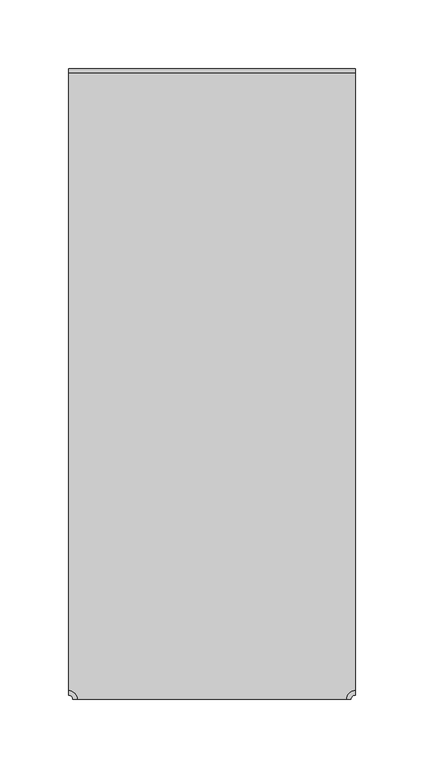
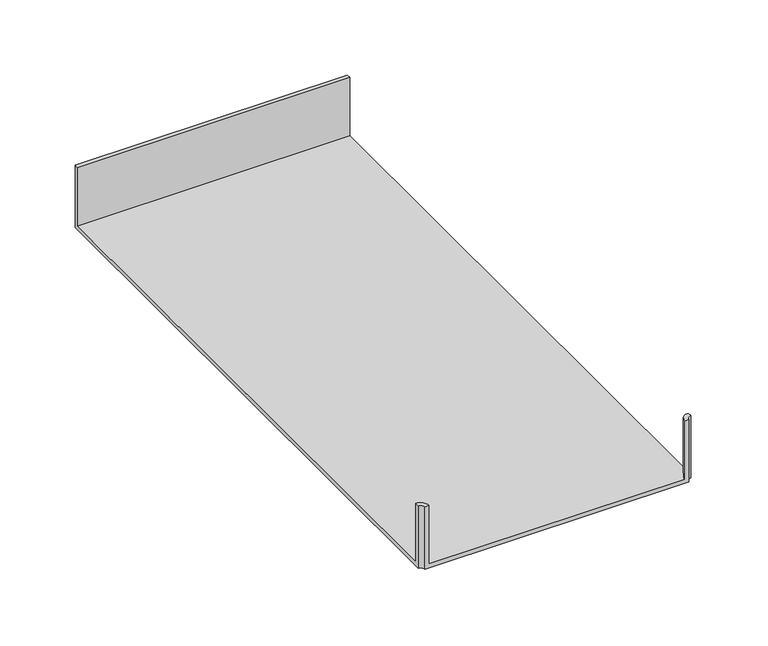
"""IFC4 building model written with IfcOpenShell, lengths in millimetres: cable carrier fitting geometry, Tee-Cablofil-Wire_Mesh_Cable_Tray : EZ T 90 KIT."""

import ifcopenshell
import ifcopenshell.guid

model = None  # the IFC model being written
_history = None  # IfcOwnerHistory: only IFC2X3 demands one
_inside = {}  # id of a spatial element -> (the spatial element, [elements in it])
_under = {}  # id of a project, library or spatial element -> (it, [spatial elements below it])
_declared = {}  # id of a project -> (the project, [libraries it declares])
_typed = {}  # id of a type object -> (the type object, [elements of that type])
_made_of = {}  # id of a material, layer set ... -> (it, [elements and type objects made of it])


def new_model(schema):
    """Start an empty IFC model of exactly this schema.

    Asked for "IFC4X3", IfcOpenShell would pick the latest addendum, in which some entities
    have other attributes; the version numbers below select the first issue.
    IFC2X3 requires an IfcOwnerHistory on every rooted entity: one is made here for all.
    """
    global model, _history
    if schema == "IFC4X3":
        model = ifcopenshell.file(schema_version=(4, 3, 0, 0))
    else:
        model = ifcopenshell.file(schema=schema)
    _inside.clear()
    _under.clear()
    _declared.clear()
    _typed.clear()
    _made_of.clear()
    _history = None
    if model.schema == "IFC2X3":
        org = make("IfcOrganization", Name="unknown")
        user = make(
            "IfcPersonAndOrganization",
            ThePerson=make("IfcPerson", FamilyName="unknown"),
            TheOrganization=org,
        )
        app = make(
            "IfcApplication",
            ApplicationDeveloper=org,
            Version="unknown",
            ApplicationFullName="unknown",
            ApplicationIdentifier="unknown",
        )
        _history = make(
            "IfcOwnerHistory",
            OwningUser=user,
            OwningApplication=app,
            ChangeAction="ADDED",
            CreationDate=0,
        )
    return model


def make(cls, **values):
    """One entity of the class cls with the attributes given. An attribute that is None is left unset."""
    return model.create_entity(
        cls, **{name: value for name, value in values.items() if value is not None}
    )


def rooted(cls, **values):
    """An entity with a GlobalId (a new one), such as an element, a storey or a relation."""
    return make(cls, GlobalId=ifcopenshell.guid.new(), OwnerHistory=_history, **values)


def si_unit(unit_type, name, prefix=None):
    """IfcSIUnit, for example si_unit("LENGTHUNIT", "METRE", prefix="MILLI")."""
    return make("IfcSIUnit", UnitType=unit_type, Prefix=prefix, Name=name)


def assignment(units):
    """IfcUnitAssignment: the units of a project."""
    return None if units is None else make("IfcUnitAssignment", Units=units)


def point(xyz):
    """IfcCartesianPoint."""
    return None if xyz is None else make("IfcCartesianPoint", Coordinates=xyz)


def direction(xyz):
    """IfcDirection."""
    return None if xyz is None else make("IfcDirection", DirectionRatios=xyz)


def frame(location, z_axis=None, x_axis=None):
    """IfcAxis2Placement3D, a coordinate frame: its origin and axes. An axis left out is left unset."""
    return make(
        "IfcAxis2Placement3D",
        Location=point(location),
        Axis=direction(z_axis),
        RefDirection=direction(x_axis),
    )


def origin():
    """The frame at (0, 0, 0) with its axes left unset."""
    return frame((0.0, 0.0, 0.0))


def place(relative_to, where):
    """IfcLocalPlacement: puts the frame where relative to a parent placement (None: the world)."""
    return make(
        "IfcLocalPlacement", PlacementRelTo=relative_to, RelativePlacement=where
    )


def context(
    kind, dimensions, precision=None, world=None, true_north=None, identifier=None
):
    """IfcGeometricRepresentationContext, for example the 3D "Model" context."""
    return make(
        "IfcGeometricRepresentationContext",
        ContextIdentifier=identifier,
        ContextType=kind,
        CoordinateSpaceDimension=dimensions,
        Precision=precision,
        WorldCoordinateSystem=world,
        TrueNorth=true_north,
    )


def project(units=None, contexts=None):
    """IfcProject with its units and contexts."""
    return rooted(
        "IfcProject",
        Name="project",
        RepresentationContexts=contexts,
        UnitsInContext=assignment(units),
    )


def spatial(cls, under=None, at=None, **own):
    """A site, building, storey or space (cls), placed at a placement, below another one or the project."""
    s = rooted(cls, ObjectPlacement=at, **own)
    if under is not None:
        _under.setdefault(under.id(), (under, []))[1].append(s)
    return s


def polyline(points):
    """IfcPolyline through the points."""
    return make("IfcPolyline", Points=[point(p) for p in points])


def circle_curve(where, radius):
    """IfcCircle in the frame where."""
    return make("IfcCircle", Position=where, Radius=radius)


def shape(context_of_items, identifier, shape_type, items):
    """IfcShapeRepresentation: the items that make up one representation, for example the "Body"."""
    return make(
        "IfcShapeRepresentation",
        ContextOfItems=context_of_items,
        RepresentationIdentifier=identifier,
        RepresentationType=shape_type,
        Items=items,
    )


def source(mapping_origin, context_of_items, identifier, shape_type, items):
    """IfcRepresentationMap: a shape defined once, which mapped items show again and again."""
    return make(
        "IfcRepresentationMap",
        MappingOrigin=mapping_origin,
        MappedRepresentation=shape(context_of_items, identifier, shape_type, items),
    )


def transform(
    local_origin,
    x_axis=None,
    y_axis=None,
    z_axis=None,
    scale=None,
    scale2=None,
    scale3=None,
    uniform=True,
):
    """IfcCartesianTransformationOperator3D, or its non-uniform kind. x_axis, y_axis, z_axis: its Axis1, 2, 3."""
    if uniform:
        return make(
            "IfcCartesianTransformationOperator3D",
            Axis1=direction(x_axis),
            Axis2=direction(y_axis),
            LocalOrigin=point(local_origin),
            Scale=scale,
            Axis3=direction(z_axis),
        )
    return make(
        "IfcCartesianTransformationOperator3DnonUniform",
        Axis1=direction(x_axis),
        Axis2=direction(y_axis),
        LocalOrigin=point(local_origin),
        Scale=scale,
        Axis3=direction(z_axis),
        Scale2=scale2,
        Scale3=scale3,
    )


def mapped(mapping_source, mapping_target):
    """IfcMappedItem: shows the shape of a source again, moved by a transform."""
    return make(
        "IfcMappedItem", MappingSource=mapping_source, MappingTarget=mapping_target
    )


def made_of(thing, what):
    """Note that an element or type object is made of a material, layer set ...; save() writes the relation."""
    if what is not None:
        _made_of.setdefault(what.id(), (what, []))[1].append(thing)
    return thing


def element(
    cls,
    number,
    at=None,
    inside=None,
    cuts=None,
    type_object=None,
    material=None,
    context=None,
    identifier="Body",
    shape_type=None,
    held_by="IfcProductDefinitionShape",
    body=None,
    shapes=None,
    **own,
):
    """One element of the class cls, such as IfcWall. Its Tag is "e" and its number.

    at: its placement. inside: the storey or other place that contains it. cuts: it is an
    opening in that element (IfcRelVoidsElement). A single representation is given by context,
    identifier, shape_type and body (its items); several are given by shapes. held_by: the class
    of the entity that holds the representations. save() writes the other relations.
    """
    e = rooted(cls, Tag="e%d" % number, ObjectPlacement=at, **own)
    if body is not None:
        shapes = [shape(context, identifier, shape_type, body)]
    if shapes is not None:
        e.Representation = make(held_by, Representations=shapes)
    if inside is not None:
        _inside.setdefault(inside.id(), (inside, []))[1].append(e)
    if cuts is not None:
        rooted(
            "IfcRelVoidsElement", RelatingBuildingElement=cuts, RelatedOpeningElement=e
        )
    if type_object is not None:
        _typed.setdefault(type_object.id(), (type_object, []))[1].append(e)
    return made_of(e, material)


def aggregate(whole, parts):
    """IfcRelAggregates: a whole, such as a stair, and the parts it consists of."""
    return rooted("IfcRelAggregates", RelatingObject=whole, RelatedObjects=parts)


def save(model, path):
    """Write the relations noted so far, then the file.

    IfcRelAggregates (storeys below a building ...), IfcRelContainedInSpatialStructure (elements
    in a storey), IfcRelDefinesByType, IfcRelAssociatesMaterial and IfcRelDeclares: one each for
    every whole, place, type object, material and project.
    """
    for whole, parts in _under.values():
        aggregate(whole, parts)
    for where, things in _inside.values():
        rooted(
            "IfcRelContainedInSpatialStructure",
            RelatedElements=things,
            RelatingStructure=where,
        )
    for kind, things in _typed.values():
        rooted("IfcRelDefinesByType", RelatedObjects=things, RelatingType=kind)
    for what, things in _made_of.values():
        rooted("IfcRelAssociatesMaterial", RelatedObjects=things, RelatingMaterial=what)
    for by, libraries in _declared.values():
        rooted("IfcRelDeclares", RelatingContext=by, RelatedDefinitions=libraries)
    model.write(path)


def plane_surface(at):
    """IfcPlane: the flat surface through the origin of the frame at, square to its z axis."""
    return make("IfcPlane", Position=at)


def cylinder_surface(at, radius):
    """IfcCylindricalSurface: all points at the distance radius from the z axis of the frame at."""
    return make("IfcCylindricalSurface", Position=at, Radius=radius)


def revolved_surface(curve, axis_point, axis_direction):
    """IfcSurfaceOfRevolution: the curve turned about the line through axis_point along axis_direction."""
    return make(
        "IfcSurfaceOfRevolution",
        SweptCurve=make("IfcArbitraryOpenProfileDef", ProfileType="CURVE", Curve=curve),
        AxisPosition=make("IfcAxis1Placement", Location=point(axis_point), Axis=direction(axis_direction)),
    )


def advanced_brep(points, edges, surfaces, faces):
    """IfcAdvancedBrep: a solid bounded by faces that lie on surfaces and meet in shared edges.

    An edge is (start, end): straight between two places in points (the first is 0);
    or (start, end, curve); or (start, end, curve, False) where it runs against its curve.
    A face is (place in surfaces, loops), or (place, loops, False) where it looks against
    its surface's normal. A loop lists edges by number (the first is 1), with a minus sign
    where the edge is run from its end to its start. The first loop is the outer one.
    """
    corners = [point(p) for p in points]
    vertices = [make("IfcVertexPoint", VertexGeometry=c) for c in corners]
    made = []
    for start, end, *more in edges:
        made.append(
            make(
                "IfcEdgeCurve",
                EdgeStart=vertices[start],
                EdgeEnd=vertices[end],
                EdgeGeometry=more[0] if more else make("IfcPolyline", Points=[corners[start], corners[end]]),
                SameSense=more[1] if len(more) > 1 else True,
            )
        )
    hull = []
    for where, loops, *sense in faces:
        bounds = []
        for j, loop in enumerate(loops):
            ring = [make("IfcOrientedEdge", EdgeElement=made[abs(k) - 1], Orientation=k > 0) for k in loop]
            bounds.append(
                make(
                    "IfcFaceOuterBound" if j == 0 else "IfcFaceBound",
                    Bound=make("IfcEdgeLoop", EdgeList=ring),
                    Orientation=True,
                )
            )
        hull.append(make("IfcAdvancedFace", Bounds=bounds, FaceSurface=surfaces[where], SameSense=sense[0] if sense else True))
    return make("IfcAdvancedBrep", Outer=make("IfcClosedShell", CfsFaces=hull))


def cable_carrier_fitting_d4a0889a(model_context):
    return source(origin(), model_context, "Body", "AdvancedBrep", [
        advanced_brep(
        [(-101.6, -231.775, 25.4), (-98.425, -231.775, 25.4), (-104.775, -225.425, 25.4), (-104.775, -228.6, 25.4), (101.6, -231.775, 25.4), (104.775, -228.6, 25.4), (104.775, -225.425, 25.4), (98.425, -231.775, 25.4), (104.775, 228.6, 25.4), (-104.775, 228.6, 25.4), (-104.775, 225.425, 25.4), (104.775, 225.425, 25.4), (-101.6, -231.775, -25.4), (-104.775, -228.6, -25.4), (-104.775, 228.6, -25.4), (104.775, 228.6, -25.4), (104.775, -228.6, -25.4), (101.6, -231.775, -25.4), (98.425, -231.775, -22.225), (-98.425, -231.775, -22.225), (-104.775, -225.425, -22.225), (-104.775, 225.425, -22.225), (104.775, 225.425, -22.225), (104.775, -225.425, -22.225)],
        [
            (0, 1),
            (1, 2, circle_curve(frame((-104.775, -231.775, 25.4), z_axis=(0.0, 0.0, 1.0), x_axis=(1.0, 0.0, 0.0)), 6.35)),
            (2, 3),
            (3, 0, circle_curve(frame((-104.775, -231.775, 25.4), z_axis=(0.0, 0.0, -1.0), x_axis=(1.0, 0.0, 0.0)), 3.175)),
            (4, 5, circle_curve(frame((104.775, -231.775, 25.4), z_axis=(0.0, 0.0, -1.0), x_axis=(1.0, 0.0, 0.0)), 3.175)),
            (5, 6),
            (6, 7, circle_curve(frame((104.775, -231.775, 25.4), z_axis=(0.0, 0.0, 1.0), x_axis=(1.0, 0.0, 0.0)), 6.35)),
            (7, 4),
            (8, 9),
            (9, 10),
            (10, 11),
            (11, 8),
            (12, 13, circle_curve(frame((-104.775, -231.775, -25.4), z_axis=(0.0, 0.0, 1.0), x_axis=(1.0, 0.0, 0.0)), 3.175)),
            (13, 14),
            (14, 15),
            (15, 16),
            (16, 17, circle_curve(frame((104.775, -231.775, -25.4), z_axis=(0.0, 0.0, 1.0), x_axis=(1.0, 0.0, 0.0)), 3.175)),
            (17, 12),
            (0, 12),
            (17, 4),
            (7, 18),
            (18, 19),
            (19, 1),
            (19, 20, circle_curve(frame((-104.775, -231.775, -22.225), z_axis=(0.0, 0.0, 1.0), x_axis=(1.0, 0.0, 0.0)), 6.35)),
            (20, 2),
            (20, 21),
            (21, 10),
            (9, 14),
            (13, 3),
            (16, 5),
            (15, 8),
            (11, 22),
            (22, 23),
            (23, 6),
            (23, 18, circle_curve(frame((104.775, -231.775, -22.225), z_axis=(0.0, 0.0, 1.0), x_axis=(1.0, 0.0, 0.0)), 6.35)),
            (21, 22),
        ],
        [
            plane_surface(frame((-101.6, -231.775, 25.4), z_axis=(0.0, 0.0, 1.0), x_axis=(1.0, 0.0, 0.0))),
            plane_surface(frame((-101.6, -231.775, -25.4), z_axis=(0.0, 0.0, -1.0), x_axis=(-1.0, 0.0, 0.0))),
            plane_surface(frame((-101.6, -231.775, 25.4), z_axis=(0.0, -1.0, 0.0), x_axis=(0.0, 0.0, -1.0))),
            cylinder_surface(frame((-104.775, -231.775, -25.4), z_axis=(0.0, 0.0, 1.0), x_axis=(1.0, 0.0, 0.0)), 6.35),
            plane_surface(frame((-104.775, -225.425, 25.4), z_axis=(-1.0, 0.0, 0.0), x_axis=(0.0, 0.0, -1.0))),
            revolved_surface(polyline([(-101.60000000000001, -231.775, -25.4), (-101.60000000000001, -231.775, 25.4)]), (-104.775, -231.775, -25.4), (0.0, 0.0, -1.0)),
            revolved_surface(polyline([(107.95, -231.775, -25.4), (107.95, -231.775, 25.4)]), (104.775, -231.775, 0.0), (0.0, 0.0, -1.0)),
            plane_surface(frame((104.775, -228.6, 25.4), z_axis=(1.0, 0.0, 0.0), x_axis=(0.0, 0.0, -1.0))),
            cylinder_surface(frame((104.775, -231.775, 0.0), z_axis=(0.0, 0.0, 1.0), x_axis=(1.0, 0.0, 0.0)), 6.35),
            plane_surface(frame((104.775, 228.6, 25.4), z_axis=(0.0, 1.0, 0.0), x_axis=(0.0, 0.0, -1.0))),
            plane_surface(frame((-104.775, 225.425, 25.4), z_axis=(0.0, -1.0, 0.0), x_axis=(0.0, 0.0, -1.0))),
            plane_surface(frame((-101.6, -231.775, -22.225), z_axis=(0.0, 0.0, 1.0), x_axis=(1.0, 0.0, 0.0))),
        ],
        [
            (0, [[1, 2, 3, 4]]),
            (0, [[5, 6, 7, 8]]),
            (0, [[9, 10, 11, 12]]),
            (1, [[13, 14, 15, 16, 17, 18]]),
            (2, [[-1, 19, -18, 20, -8, 21, 22, 23]]),
            (3, [[-2, -23, 24, 25]]),
            (4, [[-3, -25, 26, 27, -10, 28, -14, 29]]),
            (5, [[-19, -4, -29, -13]]),
            (6, [[30, -5, -20, -17]]),
            (7, [[-6, -30, -16, 31, -12, 32, 33, 34]]),
            (8, [[-7, -34, 35, -21]]),
            (9, [[-28, -9, -31, -15]]),
            (10, [[-11, -27, 36, -32]]),
            (11, [[-22, -35, -33, -36, -26, -24]]),
        ],
    ),
    ])


if __name__ == "__main__":
    model = new_model("IFC4")
    model_context = context("Model", 3, world=origin())
    ifc_project = project(units=[si_unit("LENGTHUNIT", "METRE", prefix="MILLI")], contexts=[model_context])
    site = spatial("IfcSite", under=ifc_project)
    building = spatial("IfcBuilding", under=site)
    placement = place(None, origin())
    cable_carrier_fitting_shape = cable_carrier_fitting_d4a0889a(model_context)
    element("IfcCableCarrierFitting", 1, ObjectType="Tee-Cablofil-Wire_Mesh_Cable_Tray : EZ T 90 KIT", at=placement, inside=building, context=model_context, shape_type="MappedRepresentation", body=[
        mapped(cable_carrier_fitting_shape, transform((0.0, 0.0, 0.0), x_axis=(1.0, 0.0, 0.0), y_axis=(0.0, 1.0, 0.0), z_axis=(0.0, 0.0, 1.0))),
    ])
    save(model, "model.ifc")
